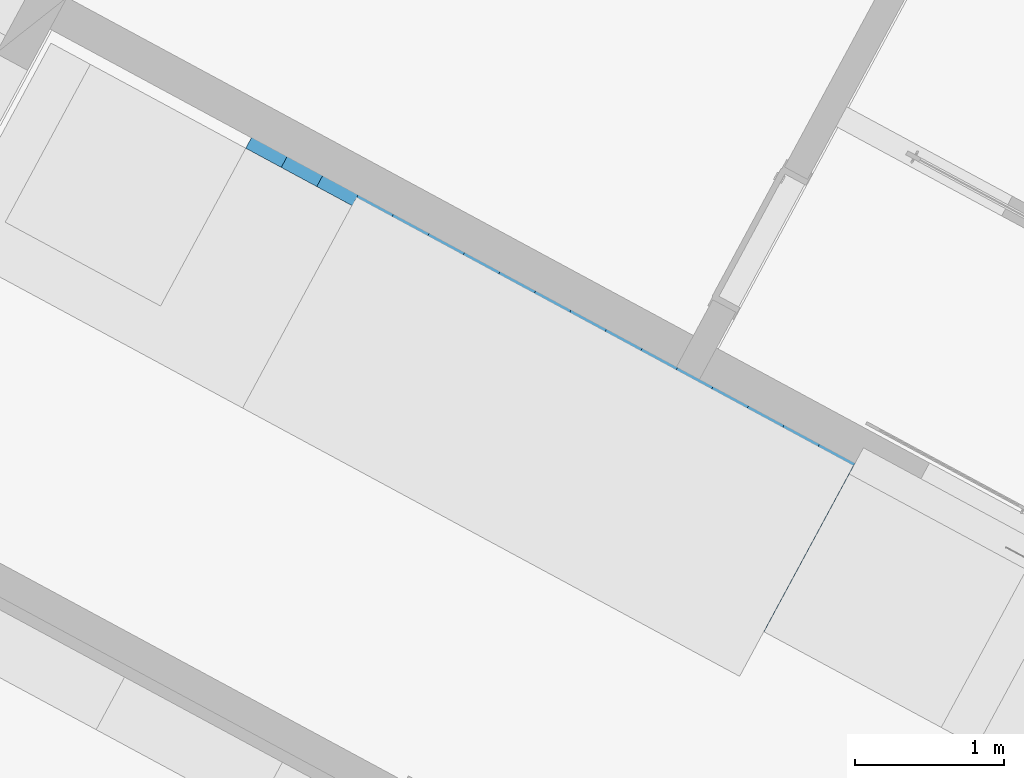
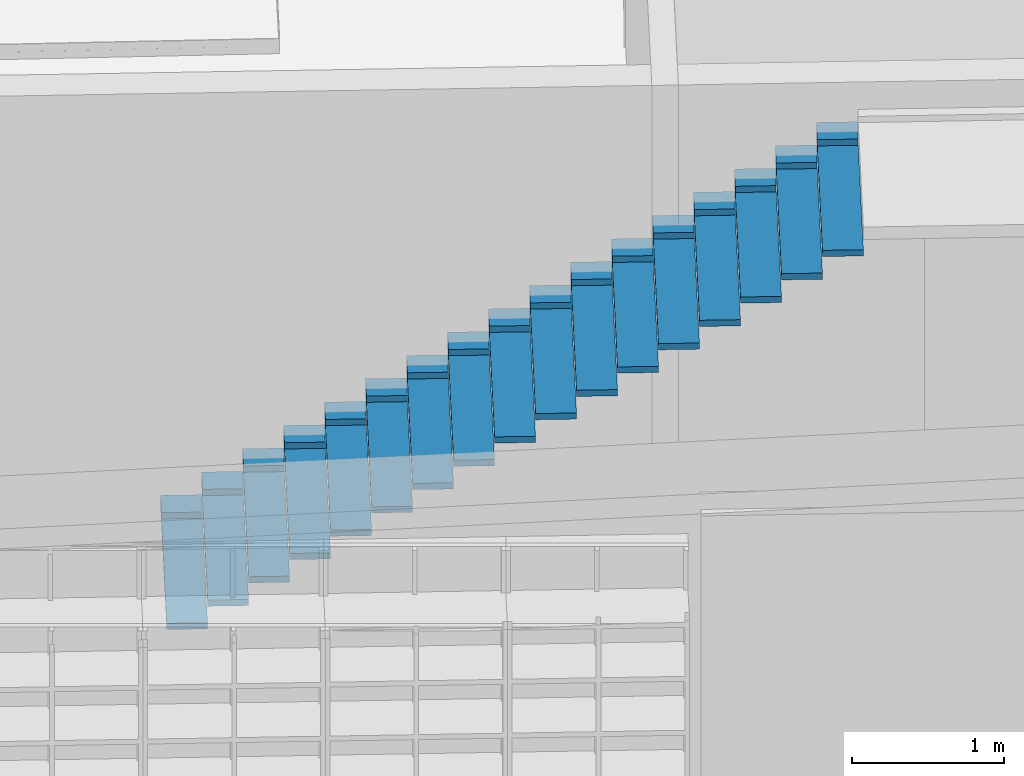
# One storey, part 11 of 36: 1 stair.
"""IFC2X3 building model written with IfcOpenShell, lengths in metres."""

from ifc_helpers import new_model, entity, si_unit, converted_unit, derived_unit, money_unit, direction, frame, origin_with_axes, place, context, subcontext, project, spatial, faceted_brep, material, element, save


model = new_model("IFC2X3")

# Units and contexts
model_context = context("Model", 3, precision=1e-05, world=origin_with_axes(), true_north=direction((0.0, 1.0)))
body_context = subcontext(model_context, "Body", "Model", "MODEL_VIEW")
ifc_project = project(units=[si_unit("LENGTHUNIT", "METRE"), si_unit("AREAUNIT", "SQUARE_METRE"), si_unit("VOLUMEUNIT", "CUBIC_METRE"), converted_unit("PLANEANGLEUNIT", "DEGREE", entity("IfcPlaneAngleMeasure", 0.0174532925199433), si_unit("PLANEANGLEUNIT", "RADIAN"), dimensions=[0, 0, 0, 0, 0, 0, 0]), money_unit("EUR"), converted_unit("TIMEUNIT", "Year", entity("IfcTimeMeasure", 31556926.0), si_unit("TIMEUNIT", "SECOND"), dimensions=[0, 0, 1, 0, 0, 0, 0]), si_unit("MASSUNIT", "GRAM", prefix="KILO"), si_unit("THERMODYNAMICTEMPERATUREUNIT", "DEGREE_CELSIUS"), si_unit("LUMINOUSINTENSITYUNIT", "LUMEN"), si_unit("ENERGYUNIT", "JOULE", prefix="MEGA"), derived_unit("THERMALCONDUCTANCEUNIT", [(si_unit("POWERUNIT", "WATT"), 1), (si_unit("LENGTHUNIT", "METRE"), -1), (si_unit("THERMODYNAMICTEMPERATUREUNIT", "KELVIN"), -1)]), derived_unit("SPECIFICHEATCAPACITYUNIT", [(si_unit("ENERGYUNIT", "JOULE"), 1), (si_unit("MASSUNIT", "GRAM", prefix="KILO"), -1), (si_unit("THERMODYNAMICTEMPERATUREUNIT", "KELVIN"), -1)]), derived_unit("MASSDENSITYUNIT", [(si_unit("MASSUNIT", "GRAM", prefix="KILO"), 1), (si_unit("VOLUMEUNIT", "CUBIC_METRE"), -1)])], contexts=[model_context])

# Site, building, storey
site_placement = place(None, frame((-3.949935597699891, 1.740105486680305, 0.0), z_axis=(0.0, 0.0, 1.0), x_axis=(0.8799804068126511, -0.475009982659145, 0.0)))
site = spatial("IfcSite", under=ifc_project, at=site_placement, Name="Gelände", CompositionType="ELEMENT")
building_placement = place(site_placement, origin_with_axes())
building = spatial("IfcBuilding", under=site, at=building_placement, Name="Gebäude", CompositionType="ELEMENT")
storey_placement = place(building_placement, origin_with_axes())
storey = spatial("IfcBuildingStorey", under=building, at=storey_placement, Name="Erdgeschoss", CompositionType="ELEMENT", Elevation=0.0)

# Stair
ifc_material = material(Name="Metall, Stahl lackiert")
stair_placement = place(storey_placement, frame((7.129984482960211, 10.57779198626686, 0.364), z_axis=(0.0, 0.0, 1.0), x_axis=(1.0, 0.0, 0.0)))
element("IfcStair", 1, at=stair_placement, inside=storey, material=ifc_material, Name="Treppe-001", ShapeType="NOTDEFINED", context=body_context, shape_type="Brep", body=[
    faceted_brep([(0.269999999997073, 1.257022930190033e-06, 0.1220000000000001), (0.2699990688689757, 0.2000012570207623, 0.1220000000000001), (0.2699990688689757, 0.2000012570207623, 0.2220000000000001), (0.269999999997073, 1.257022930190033e-06, 0.2220000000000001), (0.0, 0.0, 0.1220000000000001), (-9.311280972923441e-07, 0.1999999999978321, 0.1220000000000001), (-9.311280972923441e-07, 0.1999999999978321, 0.2220000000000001), (0.0, 0.0, 0.2220000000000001)], [[[0, 1, 2, 3]], [[0, 4, 5, 1]], [[1, 5, 6, 2]], [[3, 2, 6, 7]], [[4, 0, 3, 7]], [[5, 4, 7, 6]]]),
    faceted_brep([(0.5399999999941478, 2.514045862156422e-06, 0.304), (0.5399990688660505, 0.2000025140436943, 0.304), (0.5399990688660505, 0.2000025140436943, 0.404), (0.5399999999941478, 2.514045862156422e-06, 0.404), (0.269999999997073, 1.257022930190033e-06, 0.304), (0.2699990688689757, 0.2000012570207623, 0.304), (0.2699990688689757, 0.2000012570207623, 0.404), (0.269999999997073, 1.257022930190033e-06, 0.404)], [[[0, 1, 2, 3]], [[0, 4, 5, 1]], [[1, 5, 6, 2]], [[3, 2, 6, 7]], [[4, 0, 3, 7]], [[5, 4, 7, 6]]]),
    faceted_brep([(0.8099999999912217, 3.771068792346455e-06, 0.4860000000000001), (0.8099990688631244, 0.2000037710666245, 0.4860000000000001), (0.8099990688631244, 0.2000037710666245, 0.5860000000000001), (0.8099999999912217, 3.771068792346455e-06, 0.5860000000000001), (0.5399999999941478, 2.514045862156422e-06, 0.4860000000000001), (0.5399990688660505, 0.2000025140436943, 0.4860000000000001), (0.5399990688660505, 0.2000025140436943, 0.5860000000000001), (0.5399999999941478, 2.514045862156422e-06, 0.5860000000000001)], [[[0, 1, 2, 3]], [[0, 4, 5, 1]], [[1, 5, 6, 2]], [[3, 2, 6, 7]], [[4, 0, 3, 7]], [[5, 4, 7, 6]]]),
    faceted_brep([(1.079999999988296, 5.028091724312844e-06, 0.668), (1.079999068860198, 0.2000050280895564, 0.668), (1.079999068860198, 0.2000050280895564, 0.7680000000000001), (1.079999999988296, 5.028091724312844e-06, 0.7680000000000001), (0.8099999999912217, 3.771068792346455e-06, 0.668), (0.8099990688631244, 0.2000037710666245, 0.668), (0.8099990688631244, 0.2000037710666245, 0.7680000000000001), (0.8099999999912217, 3.771068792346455e-06, 0.7680000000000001)], [[[0, 1, 2, 3]], [[0, 4, 5, 1]], [[1, 5, 6, 2]], [[3, 2, 6, 7]], [[4, 0, 3, 7]], [[5, 4, 7, 6]]]),
    faceted_brep([(1.34999999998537, 6.285114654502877e-06, 0.85), (1.349999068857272, 0.2000062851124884, 0.85), (1.349999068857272, 0.2000062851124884, 0.9500000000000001), (1.34999999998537, 6.285114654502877e-06, 0.9500000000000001), (1.079999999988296, 5.028091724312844e-06, 0.85), (1.079999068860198, 0.2000050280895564, 0.85), (1.079999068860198, 0.2000050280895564, 0.9500000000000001), (1.079999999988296, 5.028091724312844e-06, 0.9500000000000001)], [[[0, 1, 2, 3]], [[0, 4, 5, 1]], [[1, 5, 6, 2]], [[3, 2, 6, 7]], [[4, 0, 3, 7]], [[5, 4, 7, 6]]]),
    faceted_brep([(1.619999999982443, 7.542137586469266e-06, 1.032), (1.619999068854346, 0.2000075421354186, 1.032), (1.619999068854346, 0.2000075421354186, 1.132), (1.619999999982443, 7.542137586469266e-06, 1.132), (1.34999999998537, 6.285114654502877e-06, 1.032), (1.349999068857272, 0.2000062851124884, 1.032), (1.349999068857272, 0.2000062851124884, 1.132), (1.34999999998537, 6.285114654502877e-06, 1.132)], [[[0, 1, 2, 3]], [[0, 4, 5, 1]], [[1, 5, 6, 2]], [[3, 2, 6, 7]], [[4, 0, 3, 7]], [[5, 4, 7, 6]]]),
    faceted_brep([(1.889999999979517, 8.799160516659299e-06, 1.214), (1.88999906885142, 0.2000087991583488, 1.214), (1.88999906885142, 0.2000087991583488, 1.314), (1.889999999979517, 8.799160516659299e-06, 1.314), (1.619999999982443, 7.542137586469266e-06, 1.214), (1.619999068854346, 0.2000075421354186, 1.214), (1.619999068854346, 0.2000075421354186, 1.314), (1.619999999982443, 7.542137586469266e-06, 1.314)], [[[0, 1, 2, 3]], [[0, 4, 5, 1]], [[1, 5, 6, 2]], [[3, 2, 6, 7]], [[4, 0, 3, 7]], [[5, 4, 7, 6]]]),
    faceted_brep([(2.159999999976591, 1.005618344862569e-05, 1.396), (2.159999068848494, 0.2000100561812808, 1.396), (2.159999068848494, 0.2000100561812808, 1.496), (2.159999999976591, 1.005618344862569e-05, 1.496), (1.889999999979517, 8.799160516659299e-06, 1.396), (1.88999906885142, 0.2000087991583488, 1.396), (1.88999906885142, 0.2000087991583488, 1.496), (1.889999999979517, 8.799160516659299e-06, 1.496)], [[[0, 1, 2, 3]], [[0, 4, 5, 1]], [[1, 5, 6, 2]], [[3, 2, 6, 7]], [[4, 0, 3, 7]], [[5, 4, 7, 6]]]),
    faceted_brep([(2.429999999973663, 1.131320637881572e-05, 1.578), (2.429999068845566, 0.2000113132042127, 1.578), (2.429999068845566, 0.2000113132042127, 1.678), (2.429999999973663, 1.131320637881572e-05, 1.678), (2.159999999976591, 1.005618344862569e-05, 1.578), (2.159999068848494, 0.2000100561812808, 1.578), (2.159999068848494, 0.2000100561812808, 1.678), (2.159999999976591, 1.005618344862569e-05, 1.678)], [[[0, 1, 2, 3]], [[0, 4, 5, 1]], [[1, 5, 6, 2]], [[3, 2, 6, 7]], [[4, 0, 3, 7]], [[5, 4, 7, 6]]]),
    faceted_brep([(2.699999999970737, 1.257022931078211e-05, 1.76), (2.69999906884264, 0.2000125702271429, 1.76), (2.69999906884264, 0.2000125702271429, 1.86), (2.699999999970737, 1.257022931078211e-05, 1.86), (2.429999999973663, 1.131320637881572e-05, 1.76), (2.429999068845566, 0.2000113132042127, 1.76), (2.429999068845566, 0.2000113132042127, 1.86), (2.429999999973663, 1.131320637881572e-05, 1.86)], [[[0, 1, 2, 3]], [[0, 4, 5, 1]], [[1, 5, 6, 2]], [[3, 2, 6, 7]], [[4, 0, 3, 7]], [[5, 4, 7, 6]]]),
    faceted_brep([(2.969999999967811, 1.382725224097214e-05, 1.942), (2.969999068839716, 0.2000138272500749, 1.942), (2.969999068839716, 0.2000138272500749, 2.042), (2.969999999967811, 1.382725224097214e-05, 2.042), (2.699999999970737, 1.257022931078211e-05, 1.942), (2.69999906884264, 0.2000125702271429, 1.942), (2.69999906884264, 0.2000125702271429, 2.042), (2.699999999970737, 1.257022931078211e-05, 2.042)], [[[0, 1, 2, 3]], [[0, 4, 5, 1]], [[1, 5, 6, 2]], [[3, 2, 6, 7]], [[4, 0, 3, 7]], [[5, 4, 7, 6]]]),
    faceted_brep([(3.239999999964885, 1.508427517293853e-05, 2.124000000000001), (3.239999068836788, 0.2000150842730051, 2.124000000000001), (3.239999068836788, 0.2000150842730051, 2.224), (3.239999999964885, 1.508427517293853e-05, 2.224), (2.969999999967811, 1.382725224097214e-05, 2.124000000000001), (2.969999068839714, 0.2000138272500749, 2.124000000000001), (2.969999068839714, 0.2000138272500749, 2.224), (2.969999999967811, 1.382725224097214e-05, 2.224)], [[[0, 1, 2, 3]], [[0, 4, 5, 1]], [[1, 5, 6, 2]], [[3, 2, 6, 7]], [[4, 0, 3, 7]], [[5, 4, 7, 6]]]),
    faceted_brep([(3.509999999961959, 1.634129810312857e-05, 2.306000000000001), (3.509999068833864, 0.200016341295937, 2.306000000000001), (3.509999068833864, 0.200016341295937, 2.406000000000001), (3.509999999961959, 1.634129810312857e-05, 2.406000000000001), (3.239999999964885, 1.508427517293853e-05, 2.306000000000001), (3.239999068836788, 0.2000150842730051, 2.306000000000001), (3.239999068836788, 0.2000150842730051, 2.406000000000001), (3.239999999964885, 1.508427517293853e-05, 2.406000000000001)], [[[0, 1, 2, 3]], [[0, 4, 5, 1]], [[1, 5, 6, 2]], [[3, 2, 6, 7]], [[4, 0, 3, 7]], [[5, 4, 7, 6]]]),
    faceted_brep([(3.779999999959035, 1.759832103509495e-05, 2.488), (3.779999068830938, 0.2000175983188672, 2.488), (3.779999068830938, 0.2000175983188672, 2.588000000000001), (3.779999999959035, 1.759832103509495e-05, 2.588000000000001), (3.509999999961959, 1.634129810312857e-05, 2.488), (3.509999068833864, 0.200016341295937, 2.488), (3.509999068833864, 0.200016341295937, 2.588000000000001), (3.509999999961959, 1.634129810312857e-05, 2.588000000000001)], [[[0, 1, 2, 3]], [[0, 4, 5, 1]], [[1, 5, 6, 2]], [[3, 2, 6, 7]], [[4, 0, 3, 7]], [[5, 4, 7, 6]]]),
    faceted_brep([(4.04999999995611, 1.885534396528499e-05, 2.670000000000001), (4.049999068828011, 0.2000188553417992, 2.670000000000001), (4.049999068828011, 0.2000188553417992, 2.77), (4.04999999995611, 1.885534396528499e-05, 2.77), (3.779999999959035, 1.759832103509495e-05, 2.670000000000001), (3.779999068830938, 0.2000175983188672, 2.670000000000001), (3.779999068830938, 0.2000175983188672, 2.77), (3.779999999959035, 1.759832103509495e-05, 2.77)], [[[0, 1, 2, 3]], [[0, 4, 5, 1]], [[1, 5, 6, 2]], [[3, 2, 6, 7]], [[4, 0, 3, 7]], [[5, 4, 7, 6]]]),
    faceted_brep([(4.319999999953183, 2.011236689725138e-05, 2.852), (4.319999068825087, 0.2000201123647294, 2.852), (4.319999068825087, 0.2000201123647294, 2.952000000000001), (4.319999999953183, 2.011236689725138e-05, 2.952000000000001), (4.04999999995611, 1.885534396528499e-05, 2.852), (4.049999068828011, 0.2000188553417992, 2.852), (4.049999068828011, 0.2000188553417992, 2.952000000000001), (4.04999999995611, 1.885534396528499e-05, 2.952000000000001)], [[[0, 1, 2, 3]], [[0, 4, 5, 1]], [[1, 5, 6, 2]], [[3, 2, 6, 7]], [[4, 0, 3, 7]], [[5, 4, 7, 6]]]),
    faceted_brep([(4.589999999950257, 2.136938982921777e-05, 3.034000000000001), (4.589999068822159, 0.2000213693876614, 3.034000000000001), (4.589999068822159, 0.2000213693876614, 3.134), (4.589999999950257, 2.136938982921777e-05, 3.134), (4.319999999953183, 2.011236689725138e-05, 3.034000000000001), (4.319999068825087, 0.2000201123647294, 3.034000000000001), (4.319999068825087, 0.2000201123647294, 3.134), (4.319999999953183, 2.011236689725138e-05, 3.134)], [[[0, 1, 2, 3]], [[0, 4, 5, 1]], [[1, 5, 6, 2]], [[3, 2, 6, 7]], [[4, 0, 3, 7]], [[5, 4, 7, 6]]]),
    faceted_brep([(0.0, 0.0, 0.1220000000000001), (5.586768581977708e-06, -1.199999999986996, 0.1220000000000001), (5.586768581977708e-06, -1.199999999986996, 0.172), (0.0, 0.0, 0.172), (0.269999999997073, 1.257022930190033e-06, 0.1220000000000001), (0.2700055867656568, -1.199998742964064, 0.1220000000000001), (0.2700055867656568, -1.199998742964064, 0.172), (0.269999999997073, 1.257022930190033e-06, 0.172)], [[[0, 1, 2, 3]], [[0, 4, 5, 1]], [[1, 5, 6, 2]], [[3, 2, 6, 7]], [[4, 0, 3, 7]], [[5, 4, 7, 6]]]),
    faceted_brep([(0.269999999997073, 1.257022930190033e-06, 0.304), (0.2700055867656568, -1.199998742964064, 0.304), (0.2700055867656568, -1.199998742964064, 0.354), (0.269999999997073, 1.257022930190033e-06, 0.354), (0.5399999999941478, 2.514045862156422e-06, 0.304), (0.5400055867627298, -1.199997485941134, 0.304), (0.5400055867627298, -1.199997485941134, 0.354), (0.5399999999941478, 2.514045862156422e-06, 0.354)], [[[0, 1, 2, 3]], [[0, 4, 5, 1]], [[1, 5, 6, 2]], [[3, 2, 6, 7]], [[4, 0, 3, 7]], [[5, 4, 7, 6]]]),
    faceted_brep([(0.5399999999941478, 2.514045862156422e-06, 0.4860000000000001), (0.5400055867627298, -1.199997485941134, 0.4860000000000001), (0.5400055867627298, -1.199997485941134, 0.5360000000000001), (0.5399999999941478, 2.514045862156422e-06, 0.5360000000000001), (0.8099999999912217, 3.771068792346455e-06, 0.4860000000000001), (0.8100055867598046, -1.199996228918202, 0.4860000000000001), (0.8100055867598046, -1.199996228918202, 0.5360000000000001), (0.8099999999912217, 3.771068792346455e-06, 0.5360000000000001)], [[[0, 1, 2, 3]], [[0, 4, 5, 1]], [[1, 5, 6, 2]], [[3, 2, 6, 7]], [[4, 0, 3, 7]], [[5, 4, 7, 6]]]),
    faceted_brep([(0.8099999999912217, 3.771068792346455e-06, 0.668), (0.8100055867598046, -1.199996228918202, 0.668), (0.8100055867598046, -1.199996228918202, 0.7180000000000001), (0.8099999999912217, 3.771068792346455e-06, 0.7180000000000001), (1.079999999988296, 5.028091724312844e-06, 0.668), (1.080005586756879, -1.19999497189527, 0.668), (1.080005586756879, -1.19999497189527, 0.7180000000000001), (1.079999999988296, 5.028091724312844e-06, 0.7180000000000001)], [[[0, 1, 2, 3]], [[0, 4, 5, 1]], [[1, 5, 6, 2]], [[3, 2, 6, 7]], [[4, 0, 3, 7]], [[5, 4, 7, 6]]]),
    faceted_brep([(1.079999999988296, 5.028091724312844e-06, 0.85), (1.080005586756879, -1.19999497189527, 0.85), (1.080005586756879, -1.19999497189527, 0.9), (1.079999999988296, 5.028091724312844e-06, 0.9), (1.34999999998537, 6.285114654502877e-06, 0.85), (1.350005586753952, -1.19999371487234, 0.85), (1.350005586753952, -1.19999371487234, 0.9), (1.34999999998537, 6.285114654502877e-06, 0.9)], [[[0, 1, 2, 3]], [[0, 4, 5, 1]], [[1, 5, 6, 2]], [[3, 2, 6, 7]], [[4, 0, 3, 7]], [[5, 4, 7, 6]]]),
    faceted_brep([(1.34999999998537, 6.285114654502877e-06, 1.032), (1.350005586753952, -1.19999371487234, 1.032), (1.350005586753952, -1.19999371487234, 1.082), (1.34999999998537, 6.285114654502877e-06, 1.082), (1.619999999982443, 7.542137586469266e-06, 1.032), (1.620005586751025, -1.199992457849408, 1.032), (1.620005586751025, -1.199992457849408, 1.082), (1.619999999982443, 7.542137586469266e-06, 1.082)], [[[0, 1, 2, 3]], [[0, 4, 5, 1]], [[1, 5, 6, 2]], [[3, 2, 6, 7]], [[4, 0, 3, 7]], [[5, 4, 7, 6]]]),
    faceted_brep([(1.619999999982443, 7.542137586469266e-06, 1.214), (1.620005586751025, -1.199992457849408, 1.214), (1.620005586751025, -1.199992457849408, 1.264), (1.619999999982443, 7.542137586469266e-06, 1.264), (1.889999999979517, 8.799160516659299e-06, 1.214), (1.890005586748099, -1.199991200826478, 1.214), (1.890005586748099, -1.199991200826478, 1.264), (1.889999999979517, 8.799160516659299e-06, 1.264)], [[[0, 1, 2, 3]], [[0, 4, 5, 1]], [[1, 5, 6, 2]], [[3, 2, 6, 7]], [[4, 0, 3, 7]], [[5, 4, 7, 6]]]),
    faceted_brep([(1.889999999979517, 8.799160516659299e-06, 1.396), (1.890005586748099, -1.199991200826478, 1.396), (1.890005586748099, -1.199991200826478, 1.446), (1.889999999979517, 8.799160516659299e-06, 1.446), (2.159999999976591, 1.005618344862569e-05, 1.396), (2.160005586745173, -1.199989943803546, 1.396), (2.160005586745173, -1.199989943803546, 1.446), (2.159999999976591, 1.005618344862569e-05, 1.446)], [[[0, 1, 2, 3]], [[0, 4, 5, 1]], [[1, 5, 6, 2]], [[3, 2, 6, 7]], [[4, 0, 3, 7]], [[5, 4, 7, 6]]]),
    faceted_brep([(2.159999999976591, 1.005618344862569e-05, 1.578), (2.160005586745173, -1.199989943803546, 1.578), (2.160005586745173, -1.199989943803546, 1.628), (2.159999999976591, 1.005618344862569e-05, 1.628), (2.429999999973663, 1.131320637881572e-05, 1.578), (2.430005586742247, -1.199988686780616, 1.578), (2.430005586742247, -1.199988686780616, 1.628), (2.429999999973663, 1.131320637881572e-05, 1.628)], [[[0, 1, 2, 3]], [[0, 4, 5, 1]], [[1, 5, 6, 2]], [[3, 2, 6, 7]], [[4, 0, 3, 7]], [[5, 4, 7, 6]]]),
    faceted_brep([(2.429999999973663, 1.131320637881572e-05, 1.76), (2.430005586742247, -1.199988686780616, 1.76), (2.430005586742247, -1.199988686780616, 1.81), (2.429999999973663, 1.131320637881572e-05, 1.81), (2.699999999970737, 1.257022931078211e-05, 1.76), (2.700005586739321, -1.199987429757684, 1.76), (2.700005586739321, -1.199987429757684, 1.81), (2.699999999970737, 1.257022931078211e-05, 1.81)], [[[0, 1, 2, 3]], [[0, 4, 5, 1]], [[1, 5, 6, 2]], [[3, 2, 6, 7]], [[4, 0, 3, 7]], [[5, 4, 7, 6]]]),
    faceted_brep([(2.699999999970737, 1.257022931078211e-05, 1.942), (2.700005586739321, -1.199987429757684, 1.942), (2.700005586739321, -1.199987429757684, 1.992), (2.699999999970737, 1.257022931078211e-05, 1.992), (2.969999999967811, 1.382725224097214e-05, 1.942), (2.970005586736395, -1.199986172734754, 1.942), (2.970005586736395, -1.199986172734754, 1.992), (2.969999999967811, 1.382725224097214e-05, 1.992)], [[[0, 1, 2, 3]], [[0, 4, 5, 1]], [[1, 5, 6, 2]], [[3, 2, 6, 7]], [[4, 0, 3, 7]], [[5, 4, 7, 6]]]),
    faceted_brep([(2.969999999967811, 1.382725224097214e-05, 2.124000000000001), (2.970005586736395, -1.199986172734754, 2.124000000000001), (2.970005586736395, -1.199986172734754, 2.174), (2.969999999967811, 1.382725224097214e-05, 2.174), (3.239999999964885, 1.508427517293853e-05, 2.124000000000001), (3.240005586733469, -1.199984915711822, 2.124000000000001), (3.240005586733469, -1.199984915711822, 2.174), (3.239999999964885, 1.508427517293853e-05, 2.174)], [[[0, 1, 2, 3]], [[0, 4, 5, 1]], [[1, 5, 6, 2]], [[3, 2, 6, 7]], [[4, 0, 3, 7]], [[5, 4, 7, 6]]]),
    faceted_brep([(3.239999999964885, 1.508427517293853e-05, 2.306000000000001), (3.240005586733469, -1.199984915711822, 2.306000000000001), (3.240005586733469, -1.199984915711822, 2.356000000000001), (3.239999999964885, 1.508427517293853e-05, 2.356000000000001), (3.509999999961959, 1.634129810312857e-05, 2.306000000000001), (3.510005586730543, -1.199983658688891, 2.306000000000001), (3.510005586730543, -1.199983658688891, 2.356000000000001), (3.509999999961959, 1.634129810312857e-05, 2.356000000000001)], [[[0, 1, 2, 3]], [[0, 4, 5, 1]], [[1, 5, 6, 2]], [[3, 2, 6, 7]], [[4, 0, 3, 7]], [[5, 4, 7, 6]]]),
    faceted_brep([(3.509999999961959, 1.634129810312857e-05, 2.488), (3.510005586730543, -1.199983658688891, 2.488), (3.510005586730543, -1.199983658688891, 2.538), (3.509999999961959, 1.634129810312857e-05, 2.538), (3.779999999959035, 1.759832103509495e-05, 2.488), (3.780005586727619, -1.199982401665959, 2.488), (3.780005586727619, -1.199982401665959, 2.538), (3.779999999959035, 1.759832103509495e-05, 2.538)], [[[0, 1, 2, 3]], [[0, 4, 5, 1]], [[1, 5, 6, 2]], [[3, 2, 6, 7]], [[4, 0, 3, 7]], [[5, 4, 7, 6]]]),
    faceted_brep([(3.779999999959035, 1.759832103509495e-05, 2.670000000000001), (3.780005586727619, -1.199982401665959, 2.670000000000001), (3.780005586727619, -1.199982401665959, 2.720000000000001), (3.779999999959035, 1.759832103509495e-05, 2.720000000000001), (4.04999999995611, 1.885534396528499e-05, 2.670000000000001), (4.050005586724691, -1.199981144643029, 2.670000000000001), (4.050005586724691, -1.199981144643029, 2.720000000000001), (4.04999999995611, 1.885534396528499e-05, 2.720000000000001)], [[[0, 1, 2, 3]], [[0, 4, 5, 1]], [[1, 5, 6, 2]], [[3, 2, 6, 7]], [[4, 0, 3, 7]], [[5, 4, 7, 6]]]),
    faceted_brep([(4.04999999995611, 1.885534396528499e-05, 2.852), (4.050005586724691, -1.199981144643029, 2.852), (4.050005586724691, -1.199981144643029, 2.902), (4.04999999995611, 1.885534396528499e-05, 2.902), (4.319999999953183, 2.011236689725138e-05, 2.852), (4.320005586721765, -1.199979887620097, 2.852), (4.320005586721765, -1.199979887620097, 2.902), (4.319999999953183, 2.011236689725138e-05, 2.902)], [[[0, 1, 2, 3]], [[0, 4, 5, 1]], [[1, 5, 6, 2]], [[3, 2, 6, 7]], [[4, 0, 3, 7]], [[5, 4, 7, 6]]]),
    faceted_brep([(4.319999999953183, 2.011236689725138e-05, 3.034000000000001), (4.320005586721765, -1.199979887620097, 3.034000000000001), (4.320005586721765, -1.199979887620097, 3.084000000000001), (4.319999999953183, 2.011236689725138e-05, 3.084000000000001), (4.589999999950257, 2.136938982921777e-05, 3.034000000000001), (4.590005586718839, -1.199978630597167, 3.034000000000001), (4.590005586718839, -1.199978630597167, 3.084000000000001), (4.589999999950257, 2.136938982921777e-05, 3.084000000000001)], [[[0, 1, 2, 3]], [[0, 4, 5, 1]], [[1, 5, 6, 2]], [[3, 2, 6, 7]], [[4, 0, 3, 7]], [[5, 4, 7, 6]]]),
])

save(model, "model.ifc")
